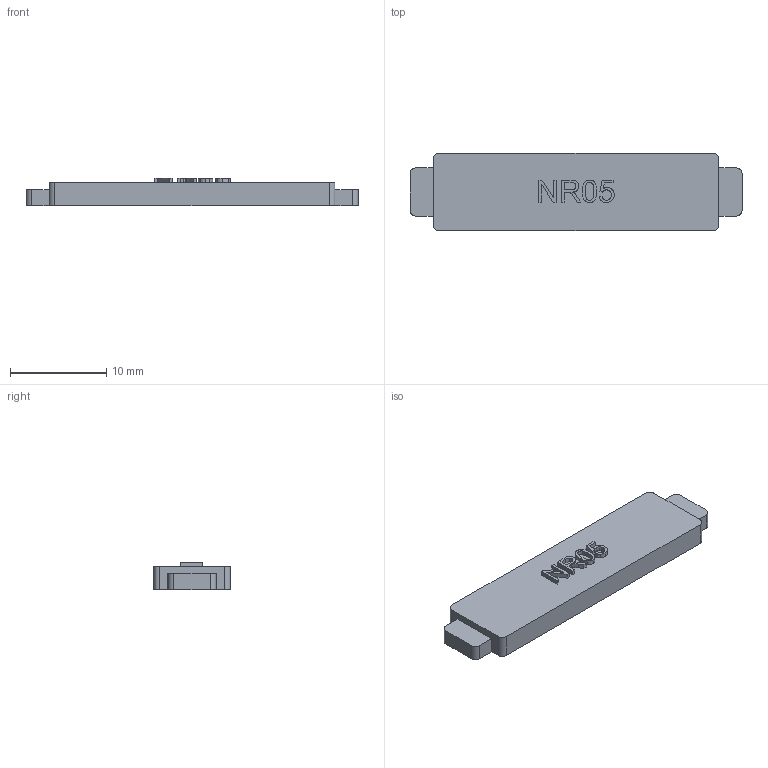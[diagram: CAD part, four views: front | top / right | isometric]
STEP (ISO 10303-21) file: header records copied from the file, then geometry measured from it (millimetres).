
FILE_DESCRIPTION(('Open CASCADE Model'),'2;1');
FILE_NAME('Open CASCADE Shape Model','1970-01-01T00:00:00',('Author'),( 'Open CASCADE'),'Open CASCADE STEP processor 7.8','Open CASCADE 7.8' ,'Unknown');
FILE_SCHEMA(('AUTOMOTIVE_DESIGN { 1 0 10303 214 1 1 1 1 }'));
Length unit declared in the file: millimetre
Products named in the file (2): Open CASCADE STEP translator 7.8 23; NR05K neck keeper bar
Assembly tree (1 placements, depth 2):
  Open CASCADE STEP translator 7.8 23
    NR05K neck keeper bar
Bounding box: 34.5 x 8 x 2.88 mm (x, y, z)
Volume: 612.6 mm3; surface area: 738.9 mm2
Topology: 1 solids, 1 shells, 107 faces, 297 edges, 198 vertices
Faces by surface type: extrusion 51, plane 48, cylinder 8
Entity records: 8157 total; most frequent: CARTESIAN_POINT 2748, DIRECTION 747, ORIENTED_EDGE 594, PCURVE 594, DEFINITIONAL_REPRESENTATION 594, VECTOR 587, LINE 536, B_SPLINE_CURVE_WITH_KNOTS 374
